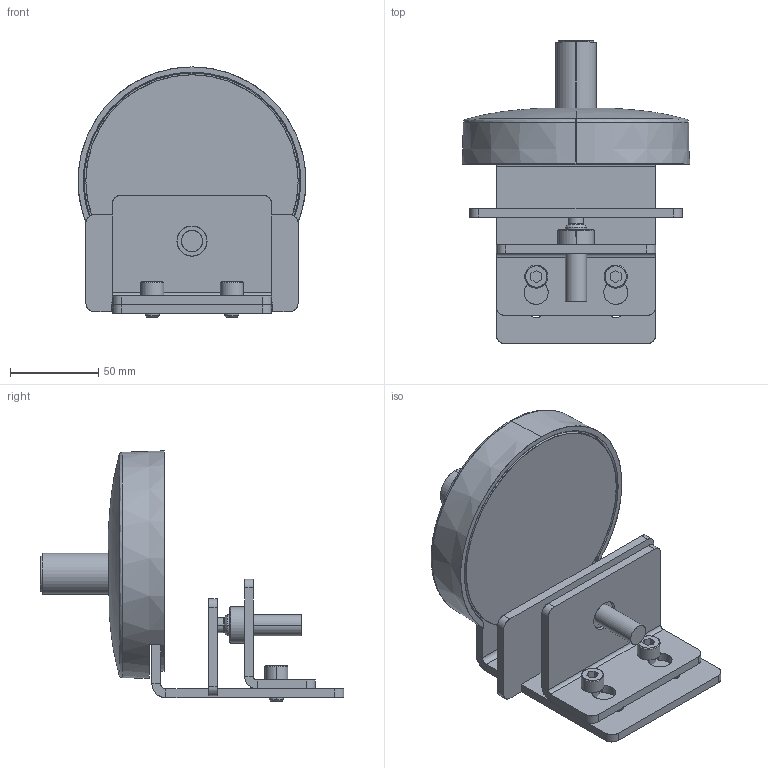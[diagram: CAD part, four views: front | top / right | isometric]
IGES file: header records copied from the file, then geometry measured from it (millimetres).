
Start section: SolidWorks IGES file using analytic representation for surfaces
Global section: file name: C:\Users\acaphr\OneDrive - Herman Miller\HLA\Customer CAD\Files for Website\Split Clamp\HLA Split Clamp.IGS; native system: SolidWorks 2022; preprocessor: SolidWorks 2022; author: ACAPHR; date: 220930.152010; units: millimetre
Bounding box: 128.87 x 171.53 x 141.5 mm (x, y, z)
Surface area: 169232.6 mm2 (no closed solid volume)
Topology: 0 solids, 0 shells, 368 faces, 4621 edges, 4621 vertices
Faces by surface type: bspline 234, revolution 134
